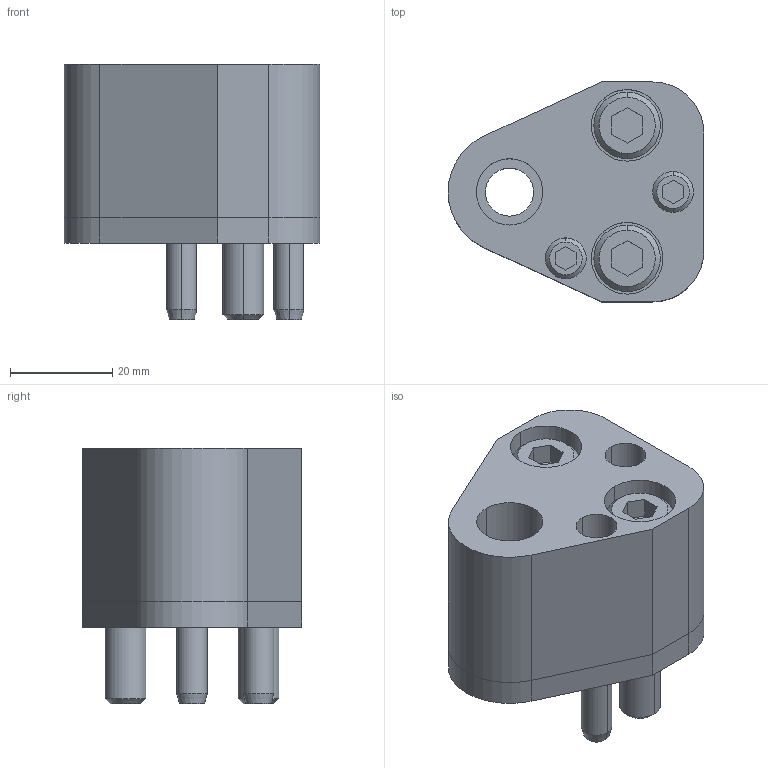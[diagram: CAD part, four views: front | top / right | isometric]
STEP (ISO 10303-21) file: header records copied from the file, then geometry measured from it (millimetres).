
FILE_DESCRIPTION(/* description */ (''),/* implementation_level */ '2;1');
FILE_NAME(/* name */ '3d_cp-ad13_03054_r00.stp',/* time_stamp */ '2011-01-10T14:16:31+09:00',/* author */ ('MISUMI'),/* organization */ (''),/* preprocessor_version */ 'ST-DEVELOPER v11',/* originating_system */ 'UGS - NX 5.0',/* authorisation */ '');
FILE_SCHEMA (('CONFIG_CONTROL_DESIGN'));
Length unit declared in the file: millimetre
Products named in the file (1): 3d_cp-ad13_03054_r00
Bounding box: 50 x 43 x 50 mm (x, y, z)
Volume: 52591.2 mm3; surface area: 21472.6 mm2
Topology: 8 solids, 8 shells, 155 faces, 346 edges, 222 vertices
Faces by surface type: plane 67, cylinder 62, cone 26
Entity records: 4474 total; most frequent: DIRECTION 804, CARTESIAN_POINT 772, ORIENTED_EDGE 692, EDGE_CURVE 346, AXIS2_PLACEMENT_3D 306, VERTEX_POINT 222, LINE 192, VECTOR 192
